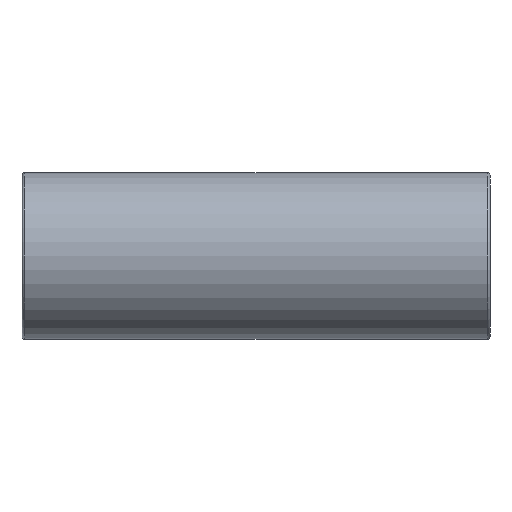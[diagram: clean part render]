
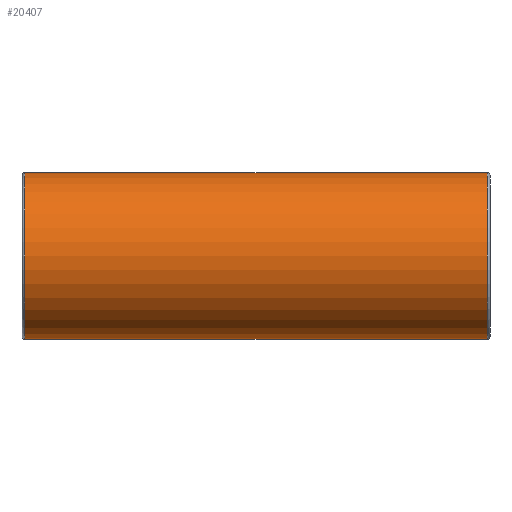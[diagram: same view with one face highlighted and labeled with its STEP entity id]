
A CAD part, left-side view. The second image highlights one B-rep face of the part: STEP entity #20407.
In plain terms, the highlighted cylindrical face has radius 8.9 mm (diameter 17.8 mm), a partial arc.
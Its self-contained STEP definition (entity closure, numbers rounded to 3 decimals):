
#514 = CARTESIAN_POINT ( 'NONE',  ( -21.758, 26.808, -8.9 ) ) ;
#915 = VERTEX_POINT ( 'NONE', #5508 ) ;
#931 = EDGE_CURVE ( 'NONE', #915, #11906, #16682, .T. ) ;
#2383 = DIRECTION ( 'NONE',  ( 0., 1., 0. ) ) ;
#2457 = VECTOR ( 'NONE', #5459, 1000. ) ;
#2821 = EDGE_LOOP ( 'NONE', ( #13382, #19784, #14650, #17008 ) ) ;
#3663 = AXIS2_PLACEMENT_3D ( 'NONE', #18059, #11039, #21136 ) ;
#3806 = EDGE_CURVE ( 'NONE', #11906, #12869, #9117, .T. ) ;
#4361 = CIRCLE ( 'NONE', #10880, 8.9 ) ;
#4731 = CARTESIAN_POINT ( 'NONE',  ( -21.758, 26.808, 0. ) ) ;
#5459 = DIRECTION ( 'NONE',  ( 0., -1., 0. ) ) ;
#5508 = CARTESIAN_POINT ( 'NONE',  ( -21.758, 26.508, 8.9 ) ) ;
#7592 = LINE ( 'NONE', #17571, #2457 ) ;
#7933 = VERTEX_POINT ( 'NONE', #14754 ) ;
#8117 = FACE_OUTER_BOUND ( 'NONE', #2821, .T. ) ;
#8932 = EDGE_CURVE ( 'NONE', #12869, #7933, #4361, .T. ) ;
#9117 = LINE ( 'NONE', #514, #16108 ) ;
#10880 = AXIS2_PLACEMENT_3D ( 'NONE', #10996, #2383, #19835 ) ;
#10996 = CARTESIAN_POINT ( 'NONE',  ( -21.758, -22.892, 0. ) ) ;
#11039 = DIRECTION ( 'NONE',  ( 0., -1., 0. ) ) ;
#11438 = CARTESIAN_POINT ( 'NONE',  ( -21.758, -22.892, -8.9 ) ) ;
#11906 = VERTEX_POINT ( 'NONE', #15110 ) ;
#12869 = VERTEX_POINT ( 'NONE', #11438 ) ;
#13117 = CYLINDRICAL_SURFACE ( 'NONE', #20674, 8.9 ) ;
#13382 = ORIENTED_EDGE ( 'NONE', *, *, #14486, .F. ) ;
#14331 = DIRECTION ( 'NONE',  ( 0., -1., 0. ) ) ;
#14486 = EDGE_CURVE ( 'NONE', #915, #7933, #7592, .T. ) ;
#14650 = ORIENTED_EDGE ( 'NONE', *, *, #3806, .T. ) ;
#14754 = CARTESIAN_POINT ( 'NONE',  ( -21.758, -22.892, 8.9 ) ) ;
#15046 = DIRECTION ( 'NONE',  ( 0., -1., 0. ) ) ;
#15110 = CARTESIAN_POINT ( 'NONE',  ( -21.758, 26.508, -8.9 ) ) ;
#16108 = VECTOR ( 'NONE', #14331, 1000. ) ;
#16682 = CIRCLE ( 'NONE', #3663, 8.9 ) ;
#17008 = ORIENTED_EDGE ( 'NONE', *, *, #8932, .T. ) ;
#17571 = CARTESIAN_POINT ( 'NONE',  ( -21.758, 26.808, 8.9 ) ) ;
#18059 = CARTESIAN_POINT ( 'NONE',  ( -21.758, 26.508, 0. ) ) ;
#19784 = ORIENTED_EDGE ( 'NONE', *, *, #931, .T. ) ;
#19835 = DIRECTION ( 'NONE',  ( 0., 0., 1. ) ) ;
#20407 = ADVANCED_FACE ( 'NONE', ( #8117 ), #13117, .T. ) ;
#20674 = AXIS2_PLACEMENT_3D ( 'NONE', #4731, #15046, #21970 ) ;
#21136 = DIRECTION ( 'NONE',  ( 0., 0., 1. ) ) ;
#21970 = DIRECTION ( 'NONE',  ( 0., 0., -1. ) ) ;
